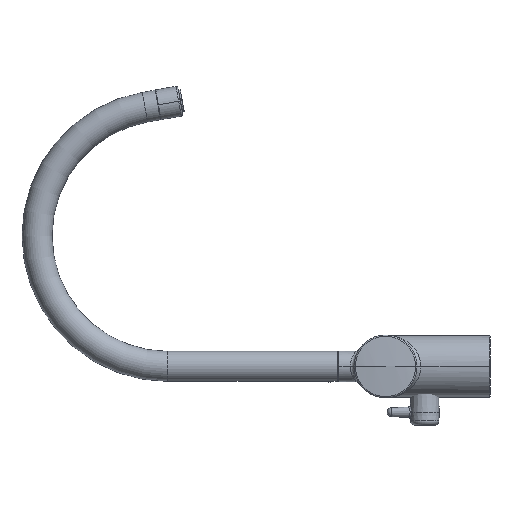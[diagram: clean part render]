
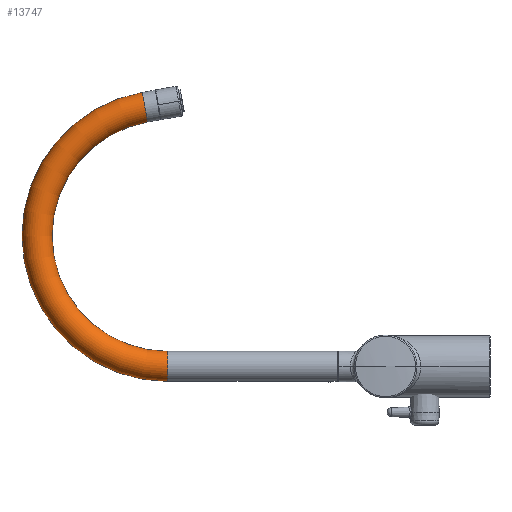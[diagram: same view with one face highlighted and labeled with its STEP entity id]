
A CAD part, left-side view. The second image highlights one B-rep face of the part: STEP entity #13747.
In plain terms, the highlighted toroidal (fillet/blend) face has major radius 100 mm and minor radius 11.5 mm.
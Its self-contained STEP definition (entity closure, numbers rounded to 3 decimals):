
#13624=CARTESIAN_POINT('',(0.,246.825,0.));
#13625=DIRECTION('',(0.,1.,0.));
#13626=DIRECTION('',(0.,0.,-1.));
#13627=AXIS2_PLACEMENT_3D('',#13624,#13625,#13626);
#13629=CARTESIAN_POINT('',(0.,246.825,100.));
#13630=DIRECTION('',(1.,0.,0.));
#13631=DIRECTION('',(0.,0.,-1.));
#13632=AXIS2_PLACEMENT_3D('',#13629,#13630,#13631);
#13639=CARTESIAN_POINT('',(0.,246.825,100.));
#13640=DIRECTION('',(1.,0.,0.));
#13641=DIRECTION('',(0.,0.,-1.));
#13642=AXIS2_PLACEMENT_3D('',#13639,#13640,#13641);
#13653=CARTESIAN_POINT('',(0.,264.19,198.481));
#13654=DIRECTION('',(0.,-0.985,0.174));
#13655=DIRECTION('',(0.,0.174,0.985));
#13656=AXIS2_PLACEMENT_3D('',#13653,#13654,#13655);
#13676=CARTESIAN_POINT('',(0.,246.825,11.5));
#13677=CARTESIAN_POINT('',(0.,246.825,-11.5));
#13678=VERTEX_POINT('',#13676);
#13679=VERTEX_POINT('',#13677);
#13680=CARTESIAN_POINT('',(0.,262.193,187.155));
#13681=CARTESIAN_POINT('',(0.,266.187,209.806));
#13682=VERTEX_POINT('',#13680);
#13683=VERTEX_POINT('',#13681);
#13733=CARTESIAN_POINT('',(0.,246.825,100.));
#13734=DIRECTION('',(1.,0.,0.));
#13735=DIRECTION('',(0.,0.,1.));
#13736=AXIS2_PLACEMENT_3D('',#13733,#13734,#13735);
#13737=TOROIDAL_SURFACE('',#13736,100.,11.5);
#13738=ORIENTED_EDGE('',*,*,#13722,.F.);
#13740=ORIENTED_EDGE('',*,*,#13739,.T.);
#13742=ORIENTED_EDGE('',*,*,#13741,.T.);
#13744=ORIENTED_EDGE('',*,*,#13743,.F.);
#13745=EDGE_LOOP('',(#13738,#13740,#13742,#13744));
#13746=FACE_OUTER_BOUND('',#13745,.F.);
#13747=ADVANCED_FACE('',(#13746),#13737,.T.);
#13628=CIRCLE('',#13627,11.5);
#13633=CIRCLE('',#13632,111.5);
#13643=CIRCLE('',#13642,88.5);
#13657=CIRCLE('',#13656,11.5);
#13722=EDGE_CURVE('',#13679,#13678,#13628,.T.);
#13739=EDGE_CURVE('',#13679,#13683,#13633,.T.);
#13741=EDGE_CURVE('',#13683,#13682,#13657,.T.);
#13743=EDGE_CURVE('',#13678,#13682,#13643,.T.);
